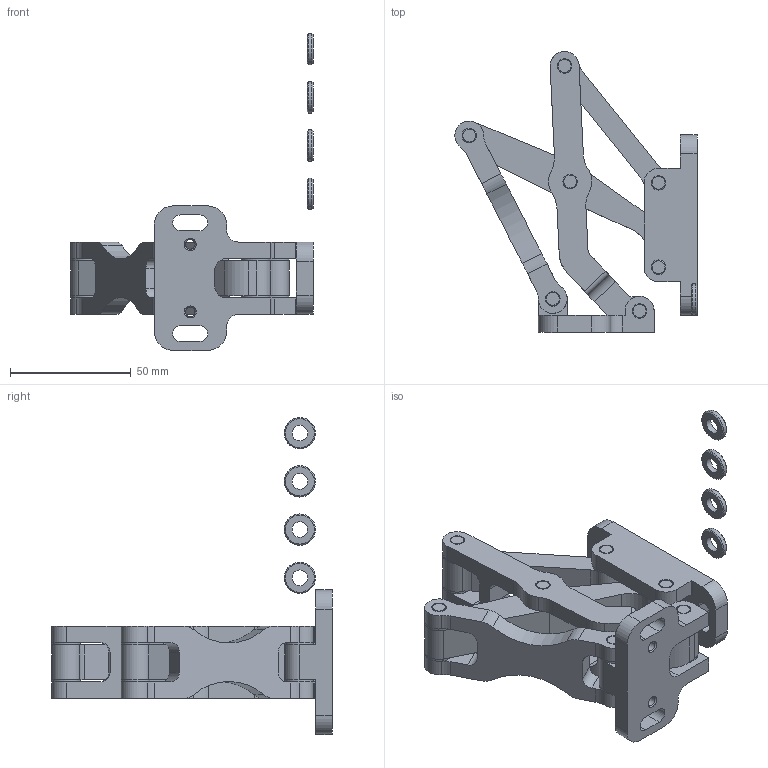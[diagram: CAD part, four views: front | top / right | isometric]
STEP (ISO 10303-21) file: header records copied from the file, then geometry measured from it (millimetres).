
FILE_DESCRIPTION(/* description */ ('STEP AP214'),/* implementation_level */ '2;1');
FILE_NAME(/* name */ 'Multiple-joint hinge GN 7247-AL-75-EL (closed)',/* time_stamp */ '2023-01-25T13:00:15+01:00',/* author */ ('License CC BY-ND 4.0'),/* organization */ ('CADENAS'),/* preprocessor_version */ 'ST-DEVELOPER v18.102',/* originating_system */ 'PARTsolutions',/* authorisation */ ' ');
FILE_SCHEMA (('AUTOMOTIVE_DESIGN {1 0 10303 214 3 1 1}'));
Length unit declared in the file: millimetre
Products named in the file (8): Multiple-joint hinge GN 7247-AL-75-EL (closed); Multiple-joint hinge GN 7247-AL-75-EL (closed)-7; Multiple-joint hinge GN 7247-AL-75-EL (closed)-5; Multiple-joint hinge GN 7247-AL-75-EL (closed)-6; Multiple-joint hinge GN 7247-AL-75-EL (closed)-2; Multiple-joint hinge GN 7247-AL-75-EL (closed)-4; Multiple-joint hinge GN 7247-AL-75-EL (closed)-3; Multiple-joint hinge GN 7247-AL-75-EL (closed)-1
Assembly tree (10 placements, depth 2):
  Multiple-joint hinge GN 7247-AL-75-EL (closed)
    Multiple-joint hinge GN 7247-AL-75-EL (closed)-7  x4
    Multiple-joint hinge GN 7247-AL-75-EL (closed)-5
    Multiple-joint hinge GN 7247-AL-75-EL (closed)-6
    Multiple-joint hinge GN 7247-AL-75-EL (closed)-2
    Multiple-joint hinge GN 7247-AL-75-EL (closed)-4
    Multiple-joint hinge GN 7247-AL-75-EL (closed)-3
    Multiple-joint hinge GN 7247-AL-75-EL (closed)-1
Bounding box: 100.5 x 116.46 x 131.5 mm (x, y, z)
Volume: 110764.9 mm3; surface area: 46887.3 mm2
Topology: 10 solids, 10 shells, 305 faces, 753 edges, 494 vertices
Faces by surface type: cylinder 152, plane 123, cone 30
Full cylindrical faces by diameter (mm): 4 x4, 5.96 x2, 6 x26, 6.5 x4, 11.88 x14, 13 x4
Entity records: 9936 total; most frequent: DIRECTION 1547, CARTESIAN_POINT 1413, ORIENTED_EDGE 1282, EDGE_CURVE 641, AXIS2_PLACEMENT_3D 610, VERTEX_POINT 466, EDGE_LOOP 433, FACE_BOUND 433
